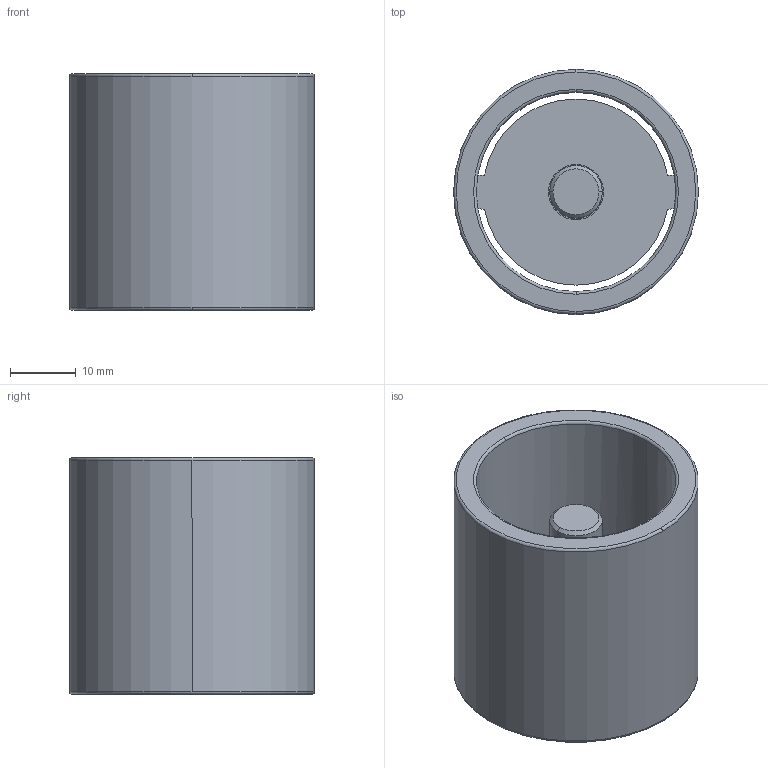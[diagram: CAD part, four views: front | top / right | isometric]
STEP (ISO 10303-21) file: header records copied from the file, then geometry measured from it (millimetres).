
FILE_DESCRIPTION((''),'2;1');
FILE_NAME('C11_030_036.stp','2009-01-12T09:16:40',(''),(''),'Mechanical Desktop 2009','Mechanical Desktop 2009',', , ');
FILE_SCHEMA(('CONFIG_CONTROL_DESIGN'));
Length unit declared in the file: millimetre
Products named in the file (2): Product; blmdl1
Assembly tree (1 placements, depth 2):
  Product
    blmdl1
Bounding box: 37.25 x 37.25 x 36 mm (x, y, z)
Volume: 16043.4 mm3; surface area: 10857.2 mm2
Topology: 3 solids, 3 shells, 44 faces, 110 edges, 74 vertices
Faces by surface type: cylinder 16, plane 16, torus 10, cone 2
Entity records: 1507 total; most frequent: CARTESIAN_POINT 274, DIRECTION 266, ORIENTED_EDGE 220, AXIS2_PLACEMENT_3D 114, EDGE_CURVE 110, VERTEX_POINT 74, CIRCLE 68, EDGE_LOOP 50
